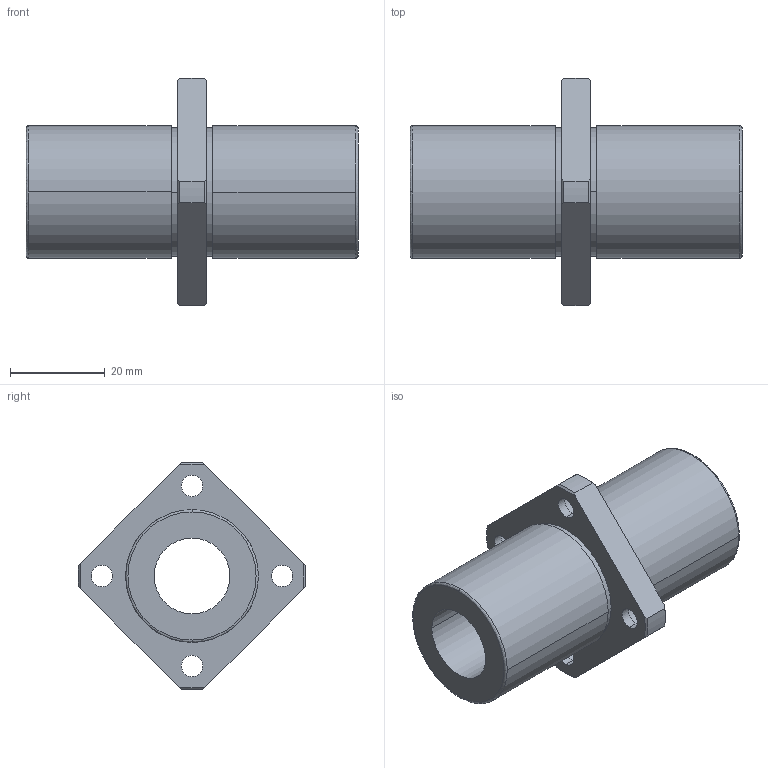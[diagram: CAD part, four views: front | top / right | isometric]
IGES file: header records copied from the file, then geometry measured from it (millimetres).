
Start section: 3D InterOp IGES (Version 21 0 1), Spatial Corp. Copyright (c) 1999-2007.
Global section: file name: NFCS-16VLUU.igs; native system: Spatial Corp.; preprocessor: 3D InterOp GENERIC/IGES 3.0; author: Noname; organization: Noname; date: 20220308.133607; units: millimetre
Bounding box: 70 x 47.99 x 47.98 mm (x, y, z)
Surface area: 12771.3 mm2 (no closed solid volume)
Topology: 0 solids, 0 shells, 59 faces, 292 edges, 292 vertices
Faces by surface type: revolution 45, extrusion 14
